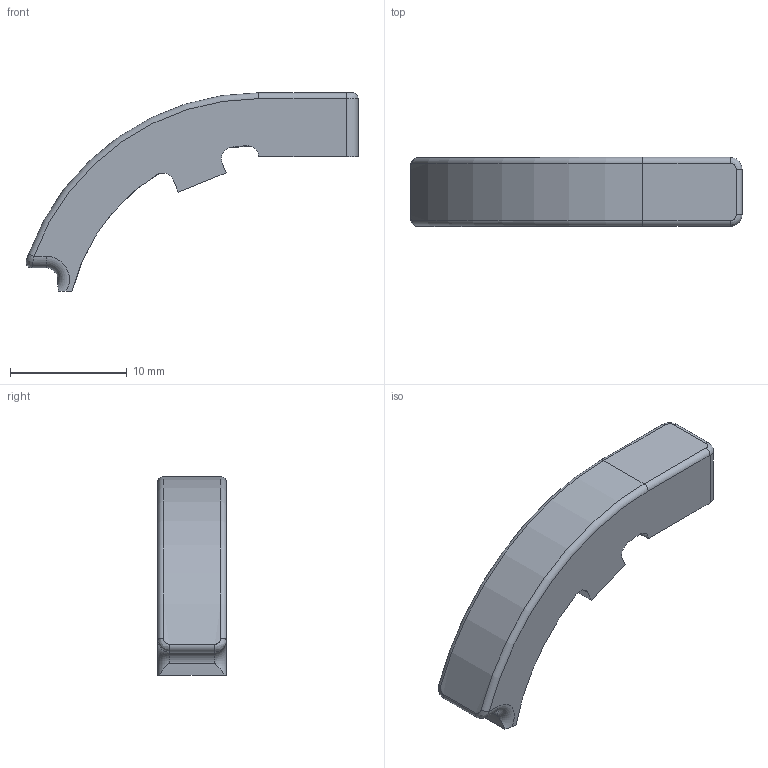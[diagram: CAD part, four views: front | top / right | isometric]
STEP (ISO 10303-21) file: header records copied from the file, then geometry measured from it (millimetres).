
FILE_DESCRIPTION(/* description */ (''),/* implementation_level */ '2;1');
FILE_NAME(/* name */ 'MirrorCast Top Trigger Button.step',/* time_stamp */ '2022-11-01T15:02:44+09:00',/* author */ (''),/* organization */ (''),/* preprocessor_version */ 'ST-DEVELOPER v19.2',/* originating_system */ 'Autodesk Translation Framework v11.17.0.187',/* authorisation */ '');
FILE_SCHEMA (('AUTOMOTIVE_DESIGN { 1 0 10303 214 3 1 1 }'));
Length unit declared in the file: millimetre
Products named in the file (1): MirrorCast Top Trigger Button
Bounding box: 28.44 x 5.9 x 17 mm (x, y, z)
Volume: 856.5 mm3; surface area: 790.9 mm2
Topology: 1 solids, 1 shells, 42 faces, 102 edges, 64 vertices
Faces by surface type: cylinder 18, plane 16, torus 4, bspline 4
Full cylindrical faces by diameter (mm): 1.5 x2
Entity records: 1489 total; most frequent: CARTESIAN_POINT 457, DIRECTION 215, ORIENTED_EDGE 204, EDGE_CURVE 102, AXIS2_PLACEMENT_3D 82, VERTEX_POINT 64, LINE 51, VECTOR 51
